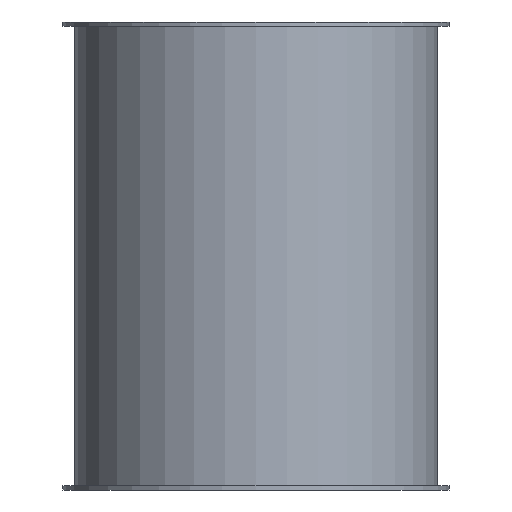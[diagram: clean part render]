
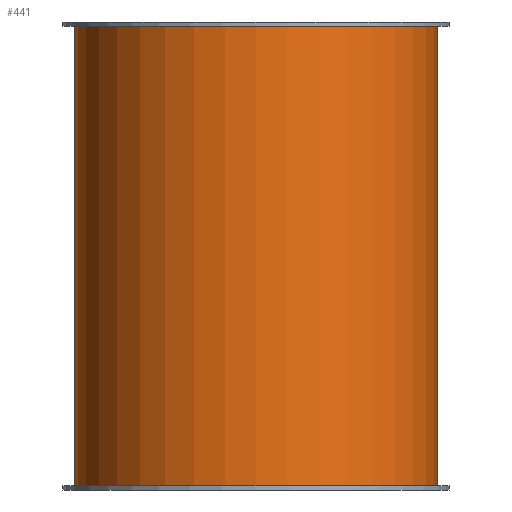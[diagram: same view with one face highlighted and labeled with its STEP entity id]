
A CAD part, front view. The second image highlights one B-rep face of the part: STEP entity #441.
In plain terms, the highlighted cylindrical face has radius 89 mm (diameter 178 mm), a full revolution.
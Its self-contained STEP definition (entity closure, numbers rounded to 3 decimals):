
#152=CARTESIAN_POINT('',(89.0,0.,228.0));
#153=VERTEX_POINT('',#152);
#154=CARTESIAN_POINT('',(0.0,0.0,228.0));
#155=DIRECTION('',(0.0,0.0,-1.0));
#156=DIRECTION('',(-1.0,0.0,0.0));
#157=AXIS2_PLACEMENT_3D('',#154,#155,#156);
#158=CIRCLE('',#157,89.0);
#159=EDGE_CURVE('',#153,#153,#158,.T.);
#200=CARTESIAN_POINT('',(-89.0,0.,2.0));
#201=VERTEX_POINT('',#200);
#202=CARTESIAN_POINT('',(0.0,0.0,2.0));
#203=DIRECTION('',(0.0,0.0,1.0));
#204=DIRECTION('',(-1.0,0.0,0.0));
#205=AXIS2_PLACEMENT_3D('',#202,#203,#204);
#206=CIRCLE('',#205,89.0);
#207=EDGE_CURVE('',#201,#201,#206,.T.);
#341=CARTESIAN_POINT('',(-76.5,45.484,115.0));
#342=VERTEX_POINT('',#341);
#343=CARTESIAN_POINT('',(-76.5,45.484,115.0));
#344=CARTESIAN_POINT('',(-76.5,45.484,109.61));
#345=CARTESIAN_POINT('',(-75.934,46.462,104.399));
#346=CARTESIAN_POINT('',(-73.849,49.71,94.39));
#347=CARTESIAN_POINT('',(-72.327,51.961,89.587));
#348=CARTESIAN_POINT('',(-68.428,56.998,80.436));
#349=CARTESIAN_POINT('',(-66.047,59.784,76.09));
#350=CARTESIAN_POINT('',(-60.557,65.338,68.));
#351=CARTESIAN_POINT('',(-57.446,68.109,64.259));
#352=CARTESIAN_POINT('',(-50.911,73.111,57.723));
#353=CARTESIAN_POINT('',(-47.278,75.544,54.661));
#354=CARTESIAN_POINT('',(-39.236,80.017,49.148));
#355=CARTESIAN_POINT('',(-34.826,82.055,46.696));
#356=CARTESIAN_POINT('',(-25.458,85.426,42.681));
#357=CARTESIAN_POINT('',(-20.49,86.763,41.113));
#358=CARTESIAN_POINT('',(-10.32,88.55,39.022));
#359=CARTESIAN_POINT('',(-5.118,89.,38.5));
#360=CARTESIAN_POINT('',(5.118,89.,38.5));
#361=CARTESIAN_POINT('',(10.32,88.55,39.022));
#362=CARTESIAN_POINT('',(20.49,86.763,41.113));
#363=CARTESIAN_POINT('',(25.458,85.426,42.681));
#364=CARTESIAN_POINT('',(34.826,82.055,46.696));
#365=CARTESIAN_POINT('',(39.236,80.017,49.148));
#366=CARTESIAN_POINT('',(47.278,75.544,54.661));
#367=CARTESIAN_POINT('',(50.911,73.111,57.723));
#368=CARTESIAN_POINT('',(57.446,68.109,64.259));
#369=CARTESIAN_POINT('',(60.557,65.338,68.));
#370=CARTESIAN_POINT('',(66.047,59.784,76.09));
#371=CARTESIAN_POINT('',(68.428,56.998,80.436));
#372=CARTESIAN_POINT('',(72.327,51.961,89.587));
#373=CARTESIAN_POINT('',(73.849,49.71,94.39));
#374=CARTESIAN_POINT('',(75.934,46.462,104.399));
#375=CARTESIAN_POINT('',(76.5,45.484,109.61));
#376=CARTESIAN_POINT('',(76.5,45.484,120.39));
#377=CARTESIAN_POINT('',(75.934,46.462,125.601));
#378=CARTESIAN_POINT('',(73.849,49.71,135.61));
#379=CARTESIAN_POINT('',(72.327,51.961,140.413));
#380=CARTESIAN_POINT('',(68.428,56.998,149.564));
#381=CARTESIAN_POINT('',(66.047,59.784,153.91));
#382=CARTESIAN_POINT('',(60.557,65.338,162.));
#383=CARTESIAN_POINT('',(57.446,68.109,165.741));
#384=CARTESIAN_POINT('',(50.911,73.111,172.277));
#385=CARTESIAN_POINT('',(47.278,75.544,175.339));
#386=CARTESIAN_POINT('',(39.236,80.017,180.852));
#387=CARTESIAN_POINT('',(34.826,82.055,183.304));
#388=CARTESIAN_POINT('',(25.458,85.426,187.319));
#389=CARTESIAN_POINT('',(20.49,86.763,188.887));
#390=CARTESIAN_POINT('',(10.32,88.55,190.978));
#391=CARTESIAN_POINT('',(5.118,89.,191.5));
#392=CARTESIAN_POINT('',(-5.118,89.0,191.5));
#393=CARTESIAN_POINT('',(-10.32,88.55,190.978));
#394=CARTESIAN_POINT('',(-20.49,86.763,188.887));
#395=CARTESIAN_POINT('',(-25.458,85.426,187.319));
#396=CARTESIAN_POINT('',(-34.826,82.055,183.304));
#397=CARTESIAN_POINT('',(-39.236,80.017,180.852));
#398=CARTESIAN_POINT('',(-47.278,75.544,175.339));
#399=CARTESIAN_POINT('',(-50.911,73.111,172.277));
#400=CARTESIAN_POINT('',(-57.446,68.109,165.741));
#401=CARTESIAN_POINT('',(-60.557,65.338,162.));
#402=CARTESIAN_POINT('',(-66.047,59.784,153.91));
#403=CARTESIAN_POINT('',(-68.428,56.998,149.564));
#404=CARTESIAN_POINT('',(-72.327,51.961,140.413));
#405=CARTESIAN_POINT('',(-73.849,49.71,135.61));
#406=CARTESIAN_POINT('',(-75.934,46.462,125.601));
#407=CARTESIAN_POINT('',(-76.5,45.484,120.39));
#408=CARTESIAN_POINT('',(-76.5,45.484,115.0));
#409=B_SPLINE_CURVE_WITH_KNOTS('',3,(#343,#344,#345,#346,#347,#348,#349,#350,#351,#352,#353,#354,#355,#356,#357,#358,#359,#360,#361,#362,#363,#364,#365,#366,#367,#368,#369,#370,#371,#372,#373,#374,#375,#376,#377,#378,#379,#380,#381,#382,#383,#384,#385,#386,#387,#388,#389,#390,#391,#392,#393,#394,#395,#396,#397,#398,#399,#400,#401,#402,#403,#404,#405,#406,#407,#408),.UNSPECIFIED.,.T.,.U.,(4,2,2,2,2,2,2,2,2,2,2,2,2,2,2,2,2,2,2,2,2,2,2,2,2,2,2,2,2,2,2,2,4),(0.0,1.617,3.234,4.851,6.469,8.004,9.54,11.075,12.611,14.146,15.682,17.217,18.752,20.37,21.987,23.604,25.221,26.838,28.455,30.073,31.69,33.225,34.761,36.296,37.832,39.367,40.903,42.438,43.974,45.591,47.208,48.825,50.442),.UNSPECIFIED.);
#410=EDGE_CURVE('',#342,#342,#409,.T.);
#427=CARTESIAN_POINT('',(0.0,0.0,0.0));
#428=DIRECTION('',(0.0,0.0,1.0));
#429=DIRECTION('',(-1.0,0.0,0.0));
#430=AXIS2_PLACEMENT_3D('',#427,#428,#429);
#431=CYLINDRICAL_SURFACE('',#430,89.0);
#432=ORIENTED_EDGE('',*,*,#159,.T.);
#433=EDGE_LOOP('',(#432));
#434=FACE_OUTER_BOUND('',#433,.T.);
#435=ORIENTED_EDGE('',*,*,#207,.T.);
#436=EDGE_LOOP('',(#435));
#437=FACE_BOUND('',#436,.T.);
#438=ORIENTED_EDGE('',*,*,#410,.T.);
#439=EDGE_LOOP('',(#438));
#440=FACE_BOUND('',#439,.T.);
#441=ADVANCED_FACE('',(#434,#437,#440),#431,.T.);
